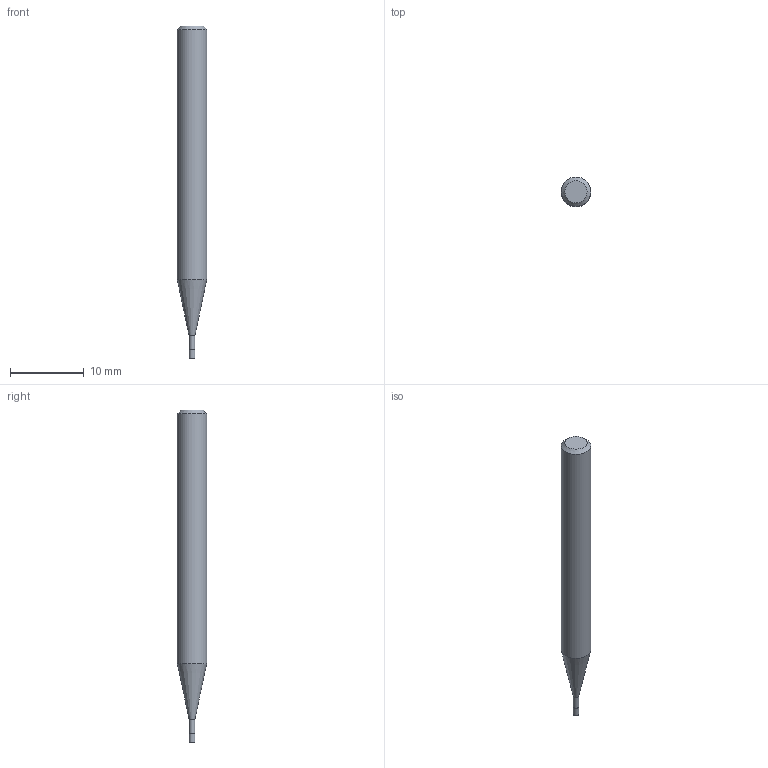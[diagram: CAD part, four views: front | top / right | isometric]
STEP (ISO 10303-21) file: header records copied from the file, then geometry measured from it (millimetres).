
FILE_DESCRIPTION((''),'2;1');
FILE_NAME('C:\Users\nsx150\AppData\Local\Temp\Mastercam 2021\17T8Q8S9EB\TEMP.step','2021-04-21T14:25:12',(''),(''),'STEP Write','Mastercam 2021 ... CNC Software, Inc.','');
FILE_SCHEMA(('AUTOMOTIVE_DESIGN'));
Length unit declared in the file: millimetre
Products named in the file (1): None
Bounding box: 4 x 4 x 45 mm (x, y, z)
Volume: 471.1 mm3; surface area: 507.6 mm2
Topology: 2 solids, 2 shells, 9 faces, 12 edges, 7 vertices
Faces by surface type: plane 4, cylinder 3, cone 2
Full cylindrical faces by diameter (mm): 0.76 x1, 0.8 x1, 4 x1
Entity records: 211 total; most frequent: DIRECTION 36, CARTESIAN_POINT 25, AXIS2_PLACEMENT_3D 18, ORIENTED_EDGE 14, EDGE_LOOP 14, STYLED_ITEM 12, ADVANCED_FACE 9, FACE_BOUND 8
